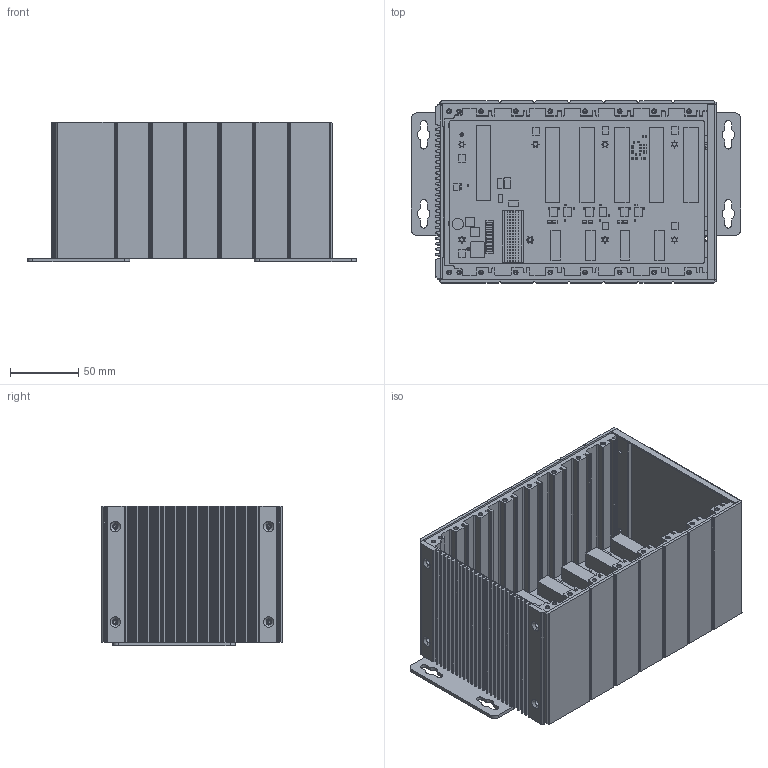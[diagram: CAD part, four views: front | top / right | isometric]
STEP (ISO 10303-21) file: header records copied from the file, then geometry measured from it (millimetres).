
FILE_DESCRIPTION((''),'2;1');
FILE_NAME('ASM0001_ASM','2015-06-25T',('Sam_Liu'),('PTC'),'PRO/ENGINEER BY PARAMETRIC TECHNOLOGY CORPORATION, 2013230','PRO/ENGINEER BY PARAMETRIC TECHNOLOGY CORPORATION, 2013230','');
FILE_SCHEMA(('AUTOMOTIVE_DESIGN { 1 0 10303 214 1 1 1 1 }'));
Products named in the file (250): BODY_254; BODY_253; BODY_252; BODY_251; BODY_250; BODY_249; BODY_248; BODY_247; BODY_246; BODY_245; BODY_244; BODY_243; BODY_242; BODY_241; BODY_240; BODY_239; BODY_238; BODY_237; BODY_236; BODY_235; BODY_234; BODY_233; BODY_232; BODY_231; BODY_230; BODY_229; BODY_228; BODY_227; BODY_226; BODY_225; BODY_224; BODY_223; BODY_222; BODY_221; BODY_220; BODY_219; BODY_218; BODY_217; BODY_216; BODY_215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
Assembly tree (249 placements, depth 2):
  ASM0001_ASM
    BODY_254
    BODY_253
    BODY_252
    BODY_251
    BODY_250
    BODY_249
    BODY_248
    BODY_247
    BODY_246
    BODY_245
    BODY_244
    BODY_243
    BODY_242
    BODY_241
    BODY_240
    BODY_239
    BODY_238
    BODY_237
    BODY_236
    BODY_235
    BODY_234
    BODY_233
    BODY_232
    BODY_231
    BODY_230
    BODY_229
    BODY_228
    BODY_227
    BODY_226
    BODY_225
    BODY_224
    BODY_223
    BODY_222
    BODY_221
    BODY_220
    BODY_219
    BODY_218
    BODY_217
    BODY_216
    BODY_215
    BODY_214
    BODY_213
    BODY_212
    BODY_211
    BODY_210
    BODY_209
    BODY_208
    BODY_207
    BODY_206
    BODY_205
    BODY_204
    BODY_203
    BODY_202
    BODY_201
    BODY_200
    BODY_199
    BODY_198
    BODY_197
    BODY_196
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Bounding box: 241.4 x 133.35 x 102.5 mm (x, y, z)
Volume: 555026.7 mm3; surface area: 351618.3 mm2
Topology: 249 solids, 249 shells, 4674 faces, 11965 edges, 7912 vertices
Faces by surface type: plane 2815, cylinder 1619, cone 236, torus 4
Entity records: 169782 total; most frequent: DIRECTION 25975, CARTESIAN_POINT 25767, ORIENTED_EDGE 23770, EDGE_CURVE 11885, AXIS2_PLACEMENT_3D 8929, VECTOR 8117, LINE 8117, VERTEX_POINT 7912
